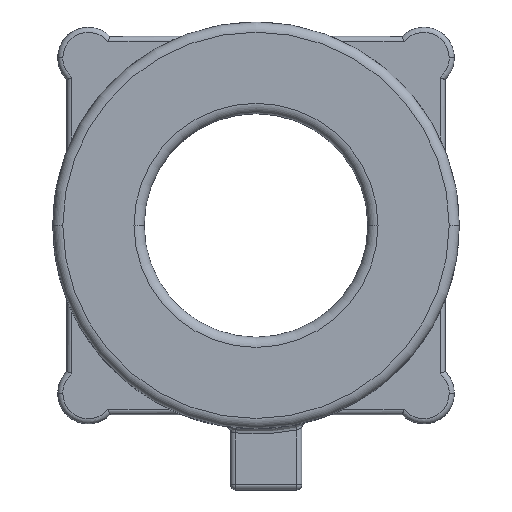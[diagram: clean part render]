
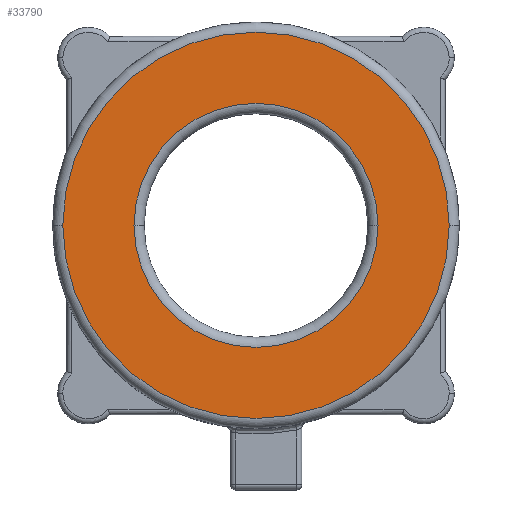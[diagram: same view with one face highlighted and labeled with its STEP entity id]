
A CAD part, top view. The second image highlights one B-rep face of the part: STEP entity #33790.
In plain terms, the highlighted planar face has unit normal (0, 0, 1).
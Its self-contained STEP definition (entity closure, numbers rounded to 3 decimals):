
#8410=CARTESIAN_POINT('',(12.,0.,16.5));
#8420=VERTEX_POINT('',#8410);
#8450=CARTESIAN_POINT('',(0.,0.,16.5
));
#8460=DIRECTION('',(0.,0.,1.));
#8470=DIRECTION('',(1.,0.,0.));
#8480=AXIS2_PLACEMENT_3D('',#8450,#8460,#8470);
#8490=CIRCLE('',#8480,12.);
#8500=CARTESIAN_POINT('',(-12.,0.,16.5));
#8510=VERTEX_POINT('',#8500);
#8520=EDGE_CURVE('',#8510,#8420,#8490,.T.);
#8900=CARTESIAN_POINT('',(19.,0.,16.5));
#8910=VERTEX_POINT('',#8900);
#8940=CARTESIAN_POINT('',(0.,0.,
16.5));
#8950=DIRECTION('',(0.,0.,1.));
#8960=DIRECTION('',(1.,0.,0.));
#8970=AXIS2_PLACEMENT_3D('',#8940,#8950,#8960);
#8980=CIRCLE('',#8970,19.);
#8990=CARTESIAN_POINT('',(-19.,0.,16.5));
#9000=VERTEX_POINT('',#8990);
#9010=EDGE_CURVE('',#8910,#9000,#8980,.T.);
#33640=CARTESIAN_POINT('',(-19.852,-19.887,16.5));
#33650=DIRECTION('',(0.,0.,1.));
#33660=DIRECTION('',(1.,0.,0.));
#33670=AXIS2_PLACEMENT_3D('',#33640,#33650,#33660);
#33680=PLANE('',#33670);
#33690=EDGE_CURVE('',#8420,#8510,#8490,.T.);
#33700=ORIENTED_EDGE('',*,*,#33690,.F.);
#33710=ORIENTED_EDGE('',*,*,#8520,.F.);
#33720=EDGE_LOOP('',(#33710,#33700));
#33730=FACE_BOUND('',#33720,.T.);
#33740=EDGE_CURVE('',#9000,#8910,#8980,.T.);
#33750=ORIENTED_EDGE('',*,*,#33740,.T.);
#33760=ORIENTED_EDGE('',*,*,#9010,.T.);
#33770=EDGE_LOOP('',(#33760,#33750));
#33780=FACE_OUTER_BOUND('',#33770,.T.);
#33790=ADVANCED_FACE('',(#33730,#33780),#33680,.T.);
